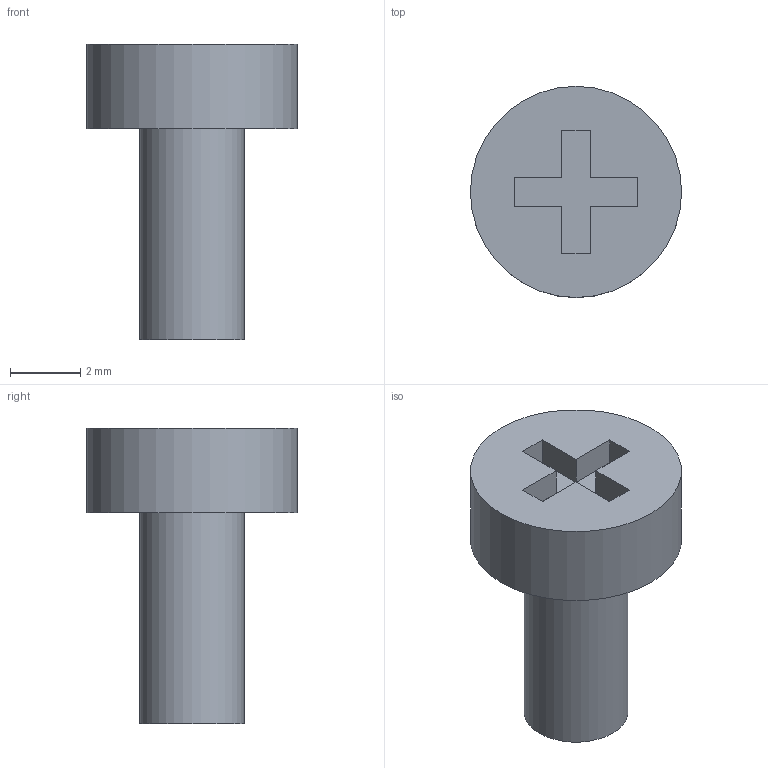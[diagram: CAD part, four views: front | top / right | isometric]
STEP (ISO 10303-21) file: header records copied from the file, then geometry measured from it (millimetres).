
FILE_DESCRIPTION(('Open CASCADE Model'),'2;1');
FILE_NAME('Open CASCADE Shape Model','2026-10-01T12:35:22',('Author'),( 'Open CASCADE'),'Open CASCADE STEP processor 7.8','Open CASCADE 7.8' ,'Unknown');
FILE_SCHEMA(('AUTOMOTIVE_DESIGN { 1 0 10303 214 1 1 1 1 }'));
Length unit declared in the file: millimetre
Products named in the file (2): H20_Base_screw_1; H20_Base_screw_1_solid
Assembly tree (1 placements, depth 2):
  H20_Base_screw_1
    H20_Base_screw_1_solid
Bounding box: 6 x 6 x 8.4 mm (x, y, z)
Volume: 105.2 mm3; surface area: 168.8 mm2
Topology: 1 solids, 1 shells, 18 faces, 42 edges, 28 vertices
Faces by surface type: plane 16, cylinder 2
Full cylindrical faces by diameter (mm): 2.96 x1, 6 x1
Entity records: 1061 total; most frequent: CARTESIAN_POINT 206, DIRECTION 138, LINE 86, VECTOR 86, ORIENTED_EDGE 84, PCURVE 84, DEFINITIONAL_REPRESENTATION 84, EDGE_CURVE 42
